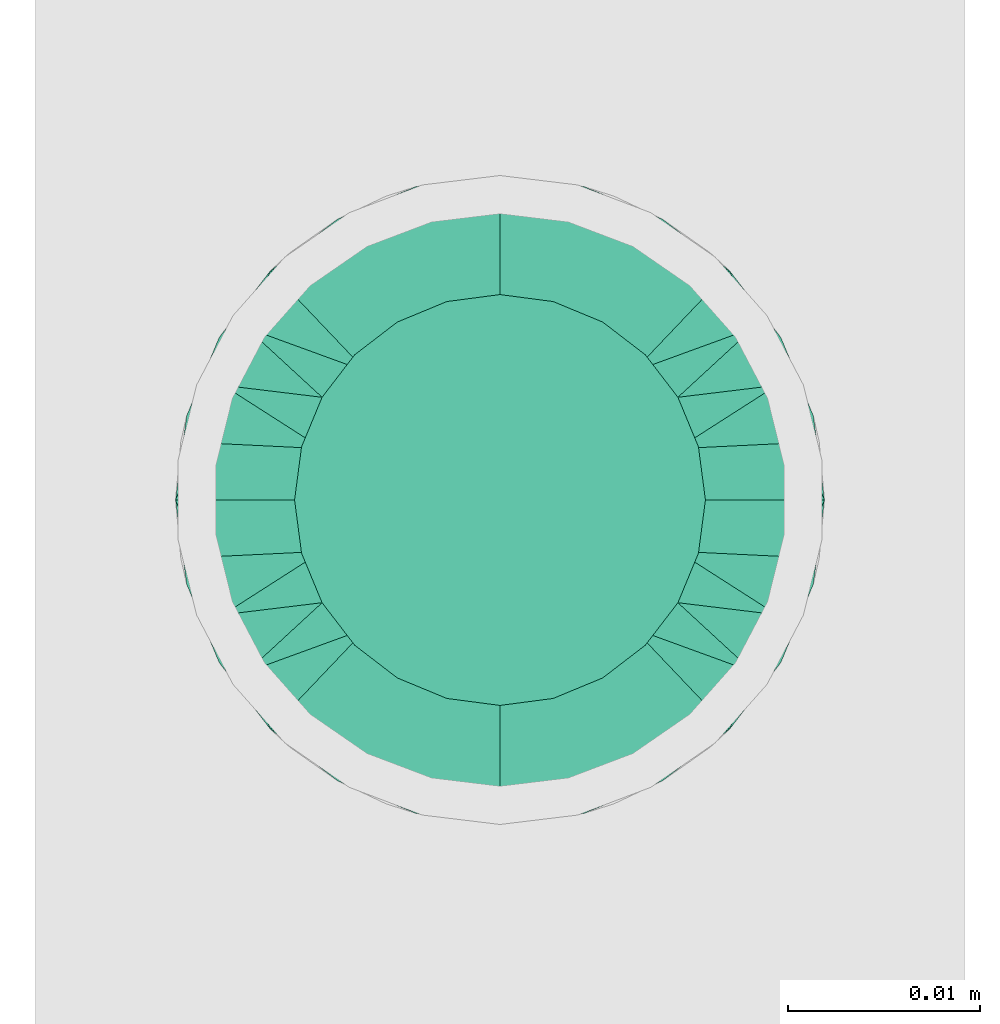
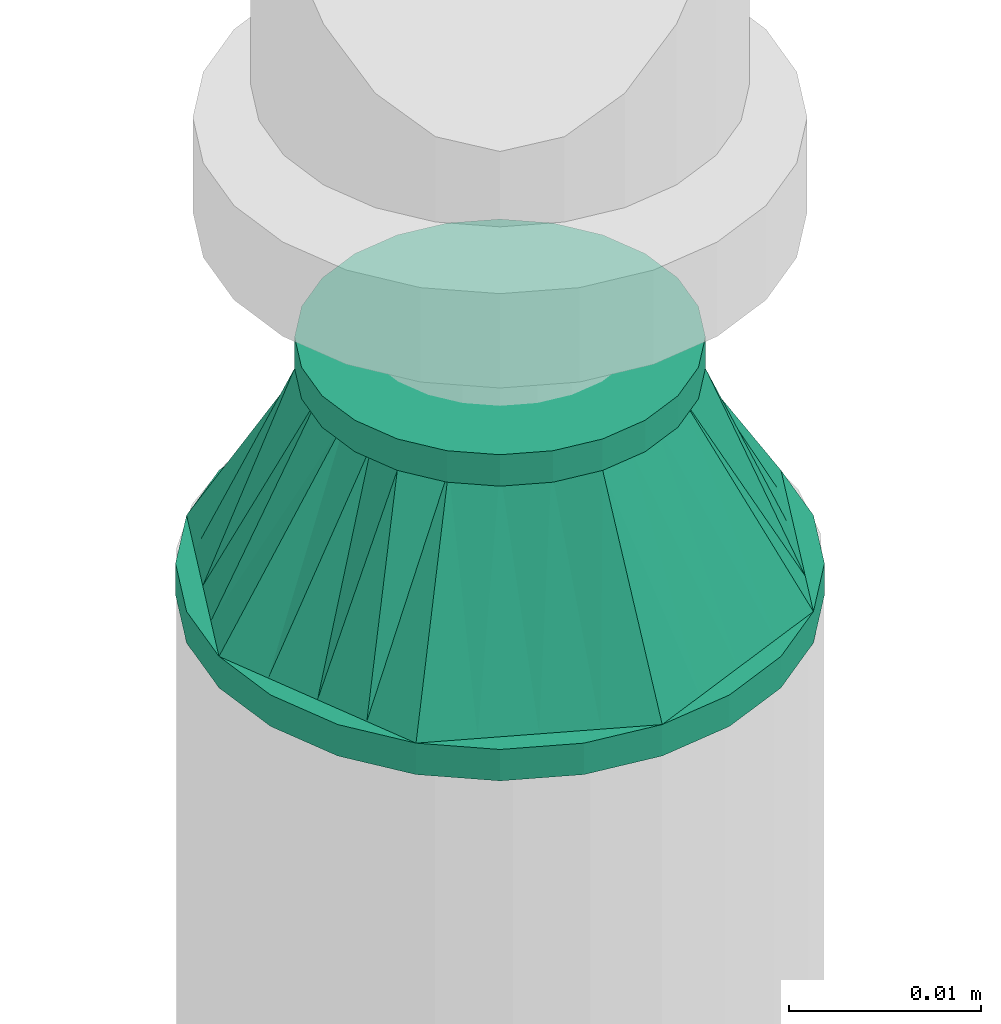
# One storey, part 26 of 63: 1 flow fitting.
"""IFC2X3 building model written with IfcOpenShell, lengths in millimetres."""

from ifc_helpers import new_model, entity, si_unit, converted_unit, derived_unit, direction, frame, origin_with_axes, place, context, subcontext, project, spatial, open_shell, surface_model, source, transform, mapped, type_object, element, save


model = new_model("IFC2X3")

# Units and contexts
model_context = context("Model", 3, precision=0.01, world=frame((0.0, 4.29681676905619e-09, 0.0)), true_north=direction((4.01073788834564e-13, 1.0)))
plan_context = context("Plan", 3, precision=0.01, world=frame((0.0, 4.29681676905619e-09, 0.0)), true_north=direction((4.01073788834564e-13, 1.0)))
body_context = subcontext(model_context, "Body", "Model", "MODEL_VIEW")
ifc_project = project(units=[converted_unit("PLANEANGLEUNIT", "DEGREE", entity("IfcPositiveLengthMeasure", 0.0174532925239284), si_unit("PLANEANGLEUNIT", "RADIAN"), dimensions=[0, 0, 0, 0, 0, 0, 0]), si_unit("AREAUNIT", "SQUARE_METRE"), si_unit("LENGTHUNIT", "METRE", prefix="MILLI"), si_unit("MASSUNIT", "GRAM", prefix="KILO"), si_unit("POWERUNIT", "WATT"), si_unit("PRESSUREUNIT", "PASCAL", prefix="KILO"), si_unit("FORCEUNIT", "NEWTON", prefix="KILO"), si_unit("ELECTRICVOLTAGEUNIT", "VOLT"), si_unit("ELECTRICCURRENTUNIT", "AMPERE"), si_unit("THERMODYNAMICTEMPERATUREUNIT", "DEGREE_CELSIUS"), si_unit("TIMEUNIT", "SECOND"), si_unit("VOLUMEUNIT", "CUBIC_METRE"), derived_unit("LINEARVELOCITYUNIT", [(si_unit("LENGTHUNIT", "METRE"), 1), (si_unit("TIMEUNIT", "SECOND"), -1)]), derived_unit("VOLUMETRICFLOWRATEUNIT", [(si_unit("VOLUMEUNIT", "CUBIC_METRE"), 1), (si_unit("TIMEUNIT", "SECOND"), -1)]), derived_unit("THERMALTRANSMITTANCEUNIT", [(si_unit("POWERUNIT", "WATT"), 1), (si_unit("THERMODYNAMICTEMPERATUREUNIT", "KELVIN"), -1), (si_unit("AREAUNIT", "SQUARE_METRE"), -1)]), derived_unit("SOUNDPRESSUREUNIT", [(si_unit("PRESSUREUNIT", "PASCAL"), 1)])], contexts=[model_context, plan_context])

# Site, building, storey
site_placement = place(None, frame((0.0, -4.29681676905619e-09, 0.0), z_axis=(0.0, 0.0, 1.0), x_axis=(1.0, 0.0, 0.0)))
site = spatial("IfcSite", under=ifc_project, at=site_placement, CompositionType="ELEMENT")
building_placement = place(site_placement, frame((0.0, 4.29681676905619e-09, 0.0), z_axis=(0.0, 0.0, 1.0), x_axis=(1.0, 0.0, 0.0)))
building = spatial("IfcBuilding", under=site, at=building_placement, Name="mc-building", CompositionType="ELEMENT")
storey_placement = place(building_placement, frame((0.0, 0.0, 207370.0), z_axis=(0.0, 0.0, 1.0), x_axis=(1.0, 0.0, 0.0)))
storey = spatial("IfcBuildingStorey", under=building, at=storey_placement, Name="Nivå E", CompositionType="ELEMENT", Elevation=207370.0)

# Flow fitting
pipe_fitting_type = type_object("IfcPipeFittingType", Name="magi_pipe_fe_reducer_centric_short_NOR", PredefinedType="TRANSITION")
shared_shape = source(origin_with_axes(), body_context, "Body", "SurfaceModel", [
    surface_model("IfcShellBasedSurfaceModel", [(14.4, 5.35, -9.26647), (14.4, 0.0, -10.7), (14.4, 2.76936, -10.33541), (14.4, 10.33541, -2.76936), (14.4, 7.56604, -7.56604), (14.4, -10.33541, -2.76936), (14.4, 9.26647, -5.35), (14.4, 0.0, 10.7), (14.4, -5.35, -9.26647), (14.4, -2.76936, -10.33541), (14.4, -7.56604, -7.56604), (14.4, -9.26647, -5.35), (14.4, 10.7, 0.0), (14.4, 10.33541, 2.76936), (14.4, 9.26647, 5.35), (14.4, 7.56604, 7.56604), (14.4, 2.76936, 10.33541), (14.4, 5.35, 9.26647), (14.4, -10.33541, 2.76936), (14.4, -7.56604, 7.56604), (14.4, -9.26647, 5.35), (14.4, -10.7, 0.0), (14.4, -2.76936, 10.33541), (14.4, -5.35, 9.26647), (12.4, 2.76936, 10.33541), (12.4, -10.33541, -2.76936), (12.4, 0.0, 10.7), (12.4, 5.35, 9.26647), (12.4, 7.56604, 7.56604), (12.4, 9.26647, 5.35), (12.4, 10.33541, 2.76936), (12.4, -10.33541, 2.76936), (12.4, -2.76936, 10.33541), (12.4, -7.56604, 7.56604), (12.4, -5.35, 9.26647), (12.4, -9.26647, 5.35), (12.4, -10.7, 0.0), (12.4, 10.33541, -2.76936), (12.4, 5.35, -9.26647), (12.4, 9.26647, -5.35), (12.4, 7.56604, -7.56604), (12.4, 2.76936, -10.33541), (12.4, -9.26647, -5.35), (12.4, -5.35, -9.26647), (12.4, -7.56604, -7.56604), (12.4, 0.0, -10.7), (12.4, -2.76936, -10.33541), (12.4, 10.7, 0.0), (-2.0, 11.9501, 11.9501), (-2.0, 0.0, 16.9), (-2.0, 4.37404, 16.32415), (-2.0, 8.45, 14.63583), (-2.0, 14.63583, 8.45), (-2.0, 16.32415, 4.37404), (-2.0, -16.32415, 4.37404), (-2.0, -8.45, 14.63583), (-2.0, -14.63583, 8.45), (-2.0, -11.9501, 11.9501), (-2.0, -4.37404, 16.32415), (-2.0, -16.32415, -4.37404), (-2.0, -16.9, 0.0), (-2.0, -8.45, -14.63583), (-2.0, 16.32415, -4.37404), (-2.0, 11.9501, -11.9501), (-2.0, 14.63583, -8.45), (-2.0, 8.45, -14.63583), (-2.0, 4.37404, -16.32415), (-2.0, 0.0, -16.9), (-2.0, -11.9501, -11.9501), (-2.0, -14.63583, -8.45), (-2.0, -4.37404, -16.32415), (-2.0, 16.9, 0.0), (0.0, 4.37404, -16.32415), (0.0, 8.45, -14.63583), (0.0, 11.9501, -11.9501), (0.0, 0.0, -16.9), (0.0, 16.32415, -4.37404), (0.0, 16.32415, 4.37404), (0.0, 14.63583, -8.45), (0.0, -8.45, -14.63583), (0.0, -4.37404, -16.32415), (0.0, -11.9501, -11.9501), (0.0, -16.32415, -4.37404), (0.0, -14.63583, -8.45), (0.0, -16.32415, 4.37404), (0.0, 16.9, 0.0), (0.0, 14.63583, 8.45), (0.0, 11.9501, 11.9501), (0.0, 4.37404, 16.32415), (0.0, 8.45, 14.63583), (0.0, 0.0, 16.9), (0.0, -14.63583, 8.45), (0.0, -16.9, 0.0), (0.0, -8.45, 14.63583), (0.0, -11.9501, 11.9501), (0.0, -4.37404, 16.32415), (12.4, 9.3625, -2.31662), (0.0, 14.42505, -5.97505), (0.0, 15.66253, -2.98753), (12.4, -6.6875, -6.94985), (0.0, -13.18758, -8.96258), (0.0, 2.98753, -15.66253), (12.4, 0.0, -9.26647), (12.4, 6.6875, -6.94985), (0.0, 8.96258, -13.18758), (12.4, -9.3625, -2.31662), (0.0, -15.66253, -2.98753), (0.0, -14.42505, -5.97505), (0.0, 5.97505, -14.42505), (0.0, -2.98753, -15.66253), (0.0, -8.96258, -13.18758), (0.0, 13.18758, -8.96258), (12.4, 8.025, -4.63324), (12.4, -2.675, -9.26647), (12.4, 2.675, -9.26647), (0.0, -5.97505, -14.42505), (12.4, -8.025, -4.63324), (12.4, -9.3625, 2.31662), (0.0, -14.42505, 5.97505), (0.0, -15.66253, 2.98753), (12.4, 6.6875, 6.94985), (0.0, 13.18758, 8.96258), (0.0, -2.98753, 15.66253), (12.4, 0.0, 9.26647), (12.4, -6.6875, 6.94985), (0.0, -8.96258, 13.18758), (12.4, 9.3625, 2.31662), (0.0, 15.66253, 2.98753), (0.0, 14.42505, 5.97505), (0.0, -5.97505, 14.42505), (0.0, 2.98753, 15.66253), (0.0, 8.96258, 13.18758), (0.0, -13.18758, 8.96258), (12.4, -8.025, 4.63324), (12.4, 2.675, 9.26647), (12.4, -2.675, 9.26647), (0.0, 5.97505, 14.42505), (12.4, 8.025, 4.63324)], [open_shell([[[0, 1, 2]], [[3, 0, 4]], [[5, 0, 3]], [[3, 4, 6]], [[7, 5, 3]], [[1, 8, 9]], [[1, 0, 8]], [[10, 5, 11]], [[5, 10, 8]], [[0, 5, 8]], [[3, 12, 13]], [[13, 14, 15]], [[13, 15, 16]], [[7, 3, 16]], [[16, 15, 17]], [[7, 18, 5]], [[18, 19, 20]], [[21, 5, 18]], [[19, 22, 23]], [[22, 19, 18]], [[7, 22, 18]], [[13, 16, 3]], [[24, 25, 26]], [[27, 25, 24]], [[28, 29, 30]], [[28, 25, 27]], [[31, 26, 25]], [[32, 33, 34]], [[33, 32, 31]], [[33, 31, 35]], [[32, 26, 31]], [[31, 25, 36]], [[30, 37, 28]], [[25, 28, 37]], [[38, 37, 39]], [[37, 38, 25]], [[38, 39, 40]], [[41, 25, 38]], [[42, 43, 44]], [[43, 42, 25]], [[43, 45, 46]], [[43, 25, 41]], [[41, 45, 43]], [[37, 30, 47]], [[25, 5, 36]], [[42, 11, 25]], [[8, 44, 43]], [[42, 44, 10]], [[9, 43, 46]], [[25, 11, 5]], [[5, 21, 36]], [[9, 8, 43]], [[10, 44, 8]], [[10, 11, 42]], [[1, 9, 46]], [[46, 45, 1]], [[41, 2, 45]], [[38, 0, 41]], [[6, 40, 39]], [[38, 40, 4]], [[3, 39, 37]], [[38, 4, 0]], [[0, 2, 41]], [[12, 3, 37]], [[6, 39, 3]], [[6, 4, 40]], [[47, 12, 37]], [[45, 2, 1]], [[30, 13, 47]], [[29, 14, 30]], [[17, 28, 27]], [[29, 28, 15]], [[16, 27, 24]], [[30, 14, 13]], [[13, 12, 47]], [[16, 17, 27]], [[15, 28, 17]], [[15, 14, 29]], [[7, 16, 24]], [[24, 26, 7]], [[32, 22, 26]], [[34, 23, 32]], [[20, 33, 35]], [[34, 33, 19]], [[18, 35, 31]], [[34, 19, 23]], [[23, 22, 32]], [[21, 18, 31]], [[20, 35, 18]], [[20, 19, 33]], [[36, 21, 31]], [[26, 22, 7]], [[48, 49, 50]], [[48, 50, 51]], [[48, 52, 53]], [[48, 53, 49]], [[49, 53, 54]], [[55, 56, 57]], [[55, 58, 49]], [[56, 55, 49]], [[49, 54, 56]], [[54, 59, 60]], [[54, 53, 61]], [[53, 62, 63]], [[63, 62, 64]], [[63, 65, 66]], [[61, 53, 63]], [[67, 63, 66]], [[59, 68, 69]], [[68, 59, 61]], [[61, 67, 70]], [[59, 54, 61]], [[63, 67, 61]], [[53, 71, 62]], [[72, 73, 74]], [[75, 72, 74]], [[74, 76, 77]], [[76, 74, 78]], [[74, 77, 79]], [[75, 79, 80]], [[75, 74, 79]], [[81, 82, 83]], [[82, 81, 79]], [[79, 84, 82]], [[77, 76, 85]], [[77, 86, 87]], [[77, 87, 88]], [[88, 84, 79]], [[88, 87, 89]], [[84, 88, 90]], [[90, 91, 84]], [[92, 82, 84]], [[91, 93, 94]], [[91, 90, 93]], [[93, 90, 95]], [[79, 77, 88]], [[59, 82, 60]], [[69, 83, 59]], [[79, 68, 61]], [[69, 68, 81]], [[80, 61, 70]], [[59, 83, 82]], [[82, 92, 60]], [[80, 79, 61]], [[81, 68, 79]], [[81, 83, 69]], [[75, 80, 70]], [[70, 67, 75]], [[66, 72, 67]], [[65, 73, 66]], [[78, 63, 64]], [[65, 63, 74]], [[76, 64, 62]], [[65, 74, 73]], [[73, 72, 66]], [[85, 76, 62]], [[78, 64, 76]], [[78, 74, 63]], [[71, 85, 62]], [[67, 72, 75]], [[53, 77, 71]], [[52, 86, 53]], [[89, 48, 51]], [[52, 48, 87]], [[88, 51, 50]], [[53, 86, 77]], [[77, 85, 71]], [[88, 89, 51]], [[87, 48, 89]], [[87, 86, 52]], [[90, 88, 50]], [[50, 49, 90]], [[58, 95, 49]], [[55, 93, 58]], [[91, 57, 56]], [[55, 57, 94]], [[84, 56, 54]], [[55, 94, 93]], [[93, 95, 58]], [[92, 84, 54]], [[91, 56, 84]], [[91, 94, 57]], [[60, 92, 54]], [[49, 95, 90]], [[27, 34, 47]], [[47, 34, 43]], [[43, 38, 47]], [[43, 34, 36]], [[90, 87, 94]], [[92, 94, 87]], [[87, 74, 92]], [[75, 92, 74]], [[81, 92, 75]], [[74, 87, 85]], [[96, 97, 98]], [[81, 99, 100]], [[101, 102, 75]], [[98, 85, 47]], [[74, 103, 104]], [[104, 103, 38]], [[105, 106, 107]], [[38, 108, 104]], [[102, 109, 75]], [[110, 99, 81]], [[47, 96, 98]], [[103, 111, 112]], [[109, 102, 113]], [[36, 92, 106]], [[102, 101, 114]], [[110, 115, 43]], [[96, 112, 97]], [[107, 116, 105]], [[36, 106, 105]], [[113, 115, 109]], [[43, 115, 113]], [[116, 107, 100]], [[108, 38, 114]], [[111, 103, 74]], [[111, 97, 112]], [[99, 110, 43]], [[116, 100, 99]], [[101, 108, 114]], [[117, 118, 119]], [[87, 120, 121]], [[122, 123, 90]], [[119, 92, 36]], [[94, 124, 125]], [[125, 124, 34]], [[126, 127, 128]], [[34, 129, 125]], [[123, 130, 90]], [[131, 120, 87]], [[36, 117, 119]], [[124, 132, 133]], [[130, 123, 134]], [[47, 85, 127]], [[123, 122, 135]], [[131, 136, 27]], [[117, 133, 118]], [[128, 137, 126]], [[47, 127, 126]], [[134, 136, 130]], [[27, 136, 134]], [[137, 128, 121]], [[129, 34, 135]], [[132, 124, 94]], [[132, 118, 133]], [[120, 131, 27]], [[137, 121, 120]], [[122, 129, 135]]])]),
])
flow_fitting_placement = place(storey_placement, frame((719641.29045, 437211.81651, 3018.36794), z_axis=(1.0, 0.0, 0.0), x_axis=(0.0, 0.0, 1.0)))
element("IfcFlowFitting", 1, at=flow_fitting_placement, inside=storey, type_object=pipe_fitting_type, Name="magi_pipe_fe_reducer_centric_short_NOR", context=body_context, shape_type="MappedRepresentation", body=[
    mapped(shared_shape, transform((0.0, 0.0, 0.0), scale=1.0)),
])

save(model, "model.ifc")
